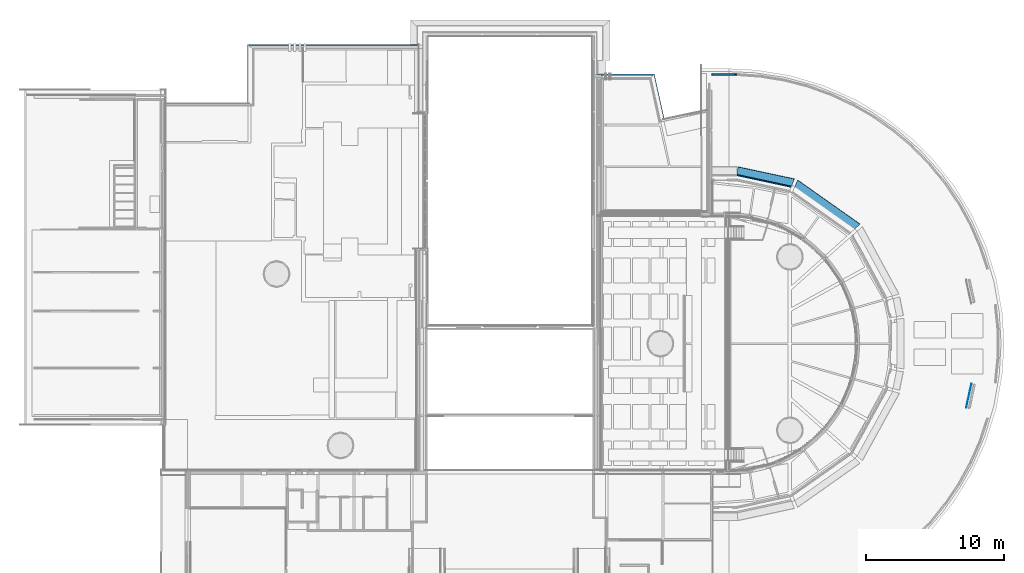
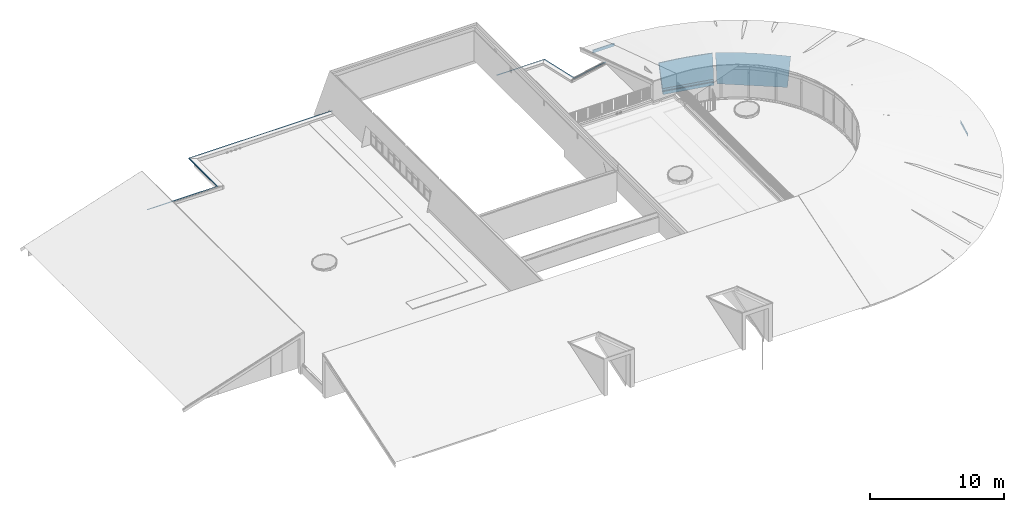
# One storey, part 52 of 66: 7 walls.
"""IFC2X3 building model written with IfcOpenShell, lengths in millimetres."""

from ifc_helpers import new_model, entity, si_unit, converted_unit, derived_unit, direction, frame, origin, place, context, subcontext, project, spatial, faceted_brep, material, layer, layer_set, type_object, element, save


model = new_model("IFC2X3")

# Units and contexts
model_context = context("Model", 3, precision=0.01, world=origin(), true_north=direction((6.12303176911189e-17, 1.0)))
body_context = subcontext(model_context, "Body", "Model", "MODEL_VIEW")
ifc_project = project(units=[si_unit("LENGTHUNIT", "METRE", prefix="MILLI"), si_unit("AREAUNIT", "SQUARE_METRE"), si_unit("VOLUMEUNIT", "CUBIC_METRE"), converted_unit("PLANEANGLEUNIT", "DEGREE", entity("IfcRatioMeasure", 0.0174532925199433), si_unit("PLANEANGLEUNIT", "RADIAN"), dimensions=[0, 0, 0, 0, 0, 0, 0]), si_unit("MASSUNIT", "GRAM", prefix="KILO"), derived_unit("MASSDENSITYUNIT", [(si_unit("MASSUNIT", "GRAM", prefix="KILO"), 1), (si_unit("LENGTHUNIT", "METRE"), -3)]), derived_unit("MOMENTOFINERTIAUNIT", [(si_unit("LENGTHUNIT", "METRE"), 4)]), si_unit("TIMEUNIT", "SECOND"), si_unit("FREQUENCYUNIT", "HERTZ"), si_unit("THERMODYNAMICTEMPERATUREUNIT", "DEGREE_CELSIUS"), derived_unit("THERMALTRANSMITTANCEUNIT", [(si_unit("MASSUNIT", "GRAM", prefix="KILO"), 1), (si_unit("THERMODYNAMICTEMPERATUREUNIT", "KELVIN"), -1), (si_unit("TIMEUNIT", "SECOND"), -3)]), derived_unit("VOLUMETRICFLOWRATEUNIT", [(si_unit("LENGTHUNIT", "METRE"), 3), (si_unit("TIMEUNIT", "SECOND"), -1)]), si_unit("ELECTRICCURRENTUNIT", "AMPERE"), si_unit("ELECTRICVOLTAGEUNIT", "VOLT"), si_unit("POWERUNIT", "WATT"), si_unit("FORCEUNIT", "NEWTON", prefix="KILO"), si_unit("ILLUMINANCEUNIT", "LUX"), si_unit("LUMINOUSFLUXUNIT", "LUMEN"), si_unit("LUMINOUSINTENSITYUNIT", "CANDELA"), derived_unit("USERDEFINED", [(si_unit("MASSUNIT", "GRAM", prefix="KILO"), -1), (si_unit("LENGTHUNIT", "METRE"), -2), (si_unit("TIMEUNIT", "SECOND"), 3), (si_unit("LUMINOUSFLUXUNIT", "LUMEN"), 1)]), derived_unit("LINEARVELOCITYUNIT", [(si_unit("LENGTHUNIT", "METRE"), 1), (si_unit("TIMEUNIT", "SECOND"), -1)]), si_unit("PRESSUREUNIT", "PASCAL"), derived_unit("USERDEFINED", [(si_unit("LENGTHUNIT", "METRE"), -2), (si_unit("MASSUNIT", "GRAM", prefix="KILO"), 1), (si_unit("TIMEUNIT", "SECOND"), -2)]), derived_unit("LINEARFORCEUNIT", [(si_unit("MASSUNIT", "GRAM", prefix="KILO"), 1), (si_unit("LENGTHUNIT", "METRE"), 1), (si_unit("TIMEUNIT", "SECOND"), -2), (si_unit("LENGTHUNIT", "METRE"), -1)]), derived_unit("PLANARFORCEUNIT", [(si_unit("MASSUNIT", "GRAM", prefix="KILO"), 1), (si_unit("LENGTHUNIT", "METRE"), 1), (si_unit("TIMEUNIT", "SECOND"), -2), (si_unit("LENGTHUNIT", "METRE"), -2)])], contexts=[model_context])

# Site, building, storey
site_placement = place(None, origin())
site = spatial("IfcSite", under=ifc_project, at=site_placement, Name="Default", CompositionType="ELEMENT")
building_placement = place(site_placement, origin())
building = spatial("IfcBuilding", under=site, at=building_placement, Name="-", CompositionType="ELEMENT")
storey_placement = place(building_placement, frame((0.0, 0.0, 3070.0)))
storey = spatial("IfcBuildingStorey", under=building, at=storey_placement, Name="01 eerste verdieping", CompositionType="ELEMENT", Elevation=3070.00000000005)

# Walls
ifc_material_1 = material(Name="NLRS_i4_hout_multiplex")
ifc_layer_1 = layer(ifc_material_1, 9.0)
ifc_material_2 = material(Name="NLRS_m1_isolatie")
ifc_layer_2 = layer(ifc_material_2, 89.0)
ifc_layer_3 = layer(ifc_material_1, 9.0)
ifc_layer_set_1 = layer_set([ifc_layer_1, ifc_layer_2, ifc_layer_3], Name="Basic Wall:NLRS_21_WA_HSB-wand_110mm")
wall_type_1 = type_object("IfcWallType", Name="Basic Wall:NLRS_21_WA_HSB-wand_110mm", PredefinedType="STANDARD", material=ifc_layer_set_1)
wall_1_placement = place(storey_placement, frame((49388.620390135, 39109.6788221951, -370.0)))
element("IfcWall", 1, at=wall_1_placement, inside=storey, type_object=wall_type_1, Name="Basic Wall:NLRS_21_WA_HSB-wand_110mm", ObjectType="Basic Wall:NLRS_21_WA_HSB-wand_110mm", context=body_context, shape_type="Brep", body=[
    faceted_brep([(0.0, -53.5000000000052, 0.0), (1840.21494557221, -53.5000000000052, 0.0), (1840.21494557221, -53.5000000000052, 273.75870137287), (1548.8239879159, -53.5000000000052, 275.88435530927), (1257.42641672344, -53.5000000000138, 276.628618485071), (0.0, -53.5000000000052, 276.628618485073), (1844.07011167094, 53.4999999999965, 0.0), (0.0, 53.4999999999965, 0.0), (0.0, 53.4999999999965, 241.862210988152), (1257.42641672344, 53.4999999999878, 241.825004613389), (1550.75158005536, 53.4999999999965, 241.112467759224), (1844.07011167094, 53.4999999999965, 238.970373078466), (1842.1425286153, -1.74315619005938e-07, 256.364538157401), (1257.42641672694, 40.1332010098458, 246.205347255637), (1257.42641671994, -40.1140653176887, 272.279264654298), (1257.42641671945, -26.7390653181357, 267.933463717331), (1257.42641672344, 0.00820101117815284, 259.242750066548), (1257.42641672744, 26.7554673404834, 250.552036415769)], [[[0, 1, 2, 3, 4, 5]], [[6, 7, 8, 9, 10, 11]], [[1, 0, 7, 6]], [[0, 5, 8, 7]], [[2, 1, 6, 11, 12]], [[13, 9, 8]], [[4, 14, 15, 16, 17, 13, 8, 5]], [[14, 4, 3, 16, 15]], [[17, 16, 10, 13]], [[3, 2, 12]], [[3, 12, 10]], [[9, 13, 10]], [[11, 10, 12]], [[10, 16, 3]]]),
])
ifc_material_3 = material(Name="NLRS_f7_gipsplaat_gen")
ifc_layer_4 = layer(ifc_material_3, 12.5)
ifc_layer_5 = layer(ifc_material_2, 89.0)
ifc_layer_6 = layer(ifc_material_3, 12.5)
ifc_layer_set_2 = layer_set([ifc_layer_4, ifc_layer_5, ifc_layer_6], Name="Basic Wall:NLRS_21_WA_HSB-wand_114mm")
wall_type_2 = type_object("IfcWallType", Name="Basic Wall:NLRS_21_WA_HSB-wand_114mm", PredefinedType="STANDARD", material=ifc_layer_set_2)
wall_2_placement = place(storey_placement, frame((55320.1348666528, 31060.142177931, -370.0), z_axis=(0.0, 0.0, 1.0), x_axis=(-0.977793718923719, 0.209569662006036, 0.0)))
element("IfcWall", 2, at=wall_2_placement, inside=storey, type_object=wall_type_2, Name="Basic Wall:NLRS_21_WA_HSB-wand_114mm", ObjectType="Basic Wall:NLRS_21_WA_HSB-wand_114mm", context=body_context, shape_type="Brep", body=[
    faceted_brep([(135.951198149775, 60.2869408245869, 0.0), (4161.52065344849, 60.2869408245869, 0.0), (4242.63730982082, -705.243775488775, 2356.06128279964), (3760.61903109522, -708.41421084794, 2365.8188795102), (3064.04620488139, -712.995860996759, 2379.91974874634), (2474.7506524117, -716.871903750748, 2391.84898171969), (1885.45509994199, -720.747946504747, 2403.77821469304), (1412.71275010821, -716.469724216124, 2390.61120038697), (939.970400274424, -712.191501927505, 2377.4441860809), (469.985200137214, -707.938231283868, 2364.35396504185), (0.0, -703.684960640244, 2351.2637440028), (19.2649333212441, -595.426497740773, 2386.99020441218), (604.259538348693, -599.694555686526, 2400.12593608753), (1189.25414337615, -603.962613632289, 2413.26166776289), (1774.2487484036, -608.230671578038, 2426.39739943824), (2359.24335343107, -612.498729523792, 2439.5331311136), (3295.1984051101, -604.682368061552, 2415.47684412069), (3763.1759309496, -600.774187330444, 2403.44870062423), (4231.15345678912, -596.866006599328, 2391.42055712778), (4164.38129256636, 33.2899316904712, 452.0), (133.327717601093, 33.2899316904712, 452.0), (146.376486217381, 105.097184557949, 231.0), (4156.77250021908, 105.097184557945, 231.0), (4148.81941862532, 180.153634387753, 0.0), (157.281852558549, 180.153634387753, 0.0), (4167.36863367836, 5.09718455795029, 231.0), (4167.36863367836, 5.09718455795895, 452.0), (4236.8953814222, -651.054873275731, 2373.74103464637), (9.63246674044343, -649.555728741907, 2369.12697744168), (128.669283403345, 5.09718455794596, 452.0), (128.669283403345, 5.09718455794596, 231.0), (128.20454940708, 5.09718455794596, 231.0), (128.20454940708, 5.09718455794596, 452.0)], [[[0, 1, 2, 3, 4, 5, 6, 7, 8, 9, 10]], [[11, 12, 13, 14, 15, 16, 17, 18, 19, 20, 21, 22, 23, 24]], [[0, 24, 23, 1]], [[2, 1, 23, 22, 25, 26, 19, 18, 27]], [[0, 10, 28, 11, 24]], [[29, 26, 25, 30, 31, 32]], [[20, 32, 31, 21]], [[20, 19, 26, 29, 32]], [[25, 22, 21, 31, 30]], [[16, 15, 5]], [[17, 4, 3]], [[8, 12, 9]], [[17, 16, 4]], [[3, 2, 27]], [[14, 7, 6]], [[28, 9, 11]], [[12, 11, 9]], [[13, 7, 14]], [[6, 15, 14]], [[18, 3, 27]], [[4, 16, 5]], [[8, 13, 12]], [[28, 10, 9]], [[13, 8, 7]], [[3, 18, 17]], [[15, 6, 5]]]),
])
ifc_material_4 = material(Name="AL_Aluminium zwart 2")
wall_type_3 = type_object("IfcWallType", Name="Daktrim:Daktrim", PredefinedType="NOTDEFINED", material=ifc_material_4)
wall_3_placement = place(storey_placement, frame((41093.0668104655, 35790.7402397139, 427.0)))
element("IfcWall", 3, at=wall_3_placement, inside=storey, type_object=wall_type_3, material=ifc_material_4, Name="Daktrim:Daktrim", ObjectType="Daktrim:Daktrim", context=body_context, shape_type="Brep", body=[
    faceted_brep([(0.0, 3351.32971343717, 0.0), (0.0, 3348.36440362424, 0.0), (0.0, 3341.11486999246, 6.0821522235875), (0.0, 3341.75797456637, 6.84793074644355), (0.0, 3348.72833128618, 1.0), (0.0, 3350.32971376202, 1.0), (0.0, 3350.32971376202, 67.0), (0.0, 3342.32971343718, 67.0), (0.0, 3342.32971343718, 63.5253906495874), (0.0, 3341.32971343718, 63.5253906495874), (0.0, 3341.32971343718, 67.0), (0.0, 3242.32971376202, 67.0), (0.0, 3242.32971376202, 68.3496093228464), (0.0, 3350.32971343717, 68.3496093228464), (0.0, 3350.32971343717, 79.0), (0.0, 3341.32971343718, 79.0), (0.0, 3341.32971343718, 80.0), (0.0, 3351.32971343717, 80.0), (4151.0048192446, 3351.32971343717, 0.0), (4866.37536737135, 129.310415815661, 0.0), (7917.15042964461, 784.84196459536, 0.0), (7917.77337822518, 781.942827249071, 0.0), (4864.1189008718, 125.792567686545, 0.0), (4148.62567513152, 3348.36440362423, 0.0), (4142.80918837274, 3341.11486999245, 6.0821522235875), (4143.32516766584, 3341.75797456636, 6.84793074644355), (4148.9176636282, 3348.72833128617, 1.0), (4864.39583334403, 126.224307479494, 1.0), (7917.69692475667, 782.298633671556, 1.0), (7917.36050832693, 783.864280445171, 1.0), (4865.61441289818, 128.124082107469, 1.0), (4150.2024938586, 3350.32971376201, 1.0), (4150.2024938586, 3350.32971376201, 67.0), (4865.61441289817, 128.124082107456, 67.0), (7917.36050832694, 783.864280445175, 67.0), (7919.04113839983, 776.042804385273, 67.0), (4859.52677488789, 118.633408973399, 67.0), (4143.78388842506, 3342.32971343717, 67.0), (4143.78388842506, 3342.32971343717, 63.5253906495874), (4859.52677488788, 118.633408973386, 63.5253906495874), (7919.04113839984, 776.042804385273, 63.5253906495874), (7919.25121715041, 775.065119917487, 63.5253906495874), (4858.76582016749, 117.44707487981, 63.5253906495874), (4142.98156277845, 3341.32971343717, 63.5253906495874), (4142.98156277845, 3341.32971343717, 67.0), (4858.76582016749, 117.447074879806, 67.0), (7919.25121715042, 775.065119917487, 67.0), (7940.04901338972, 678.274357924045, 67.0), (4783.43130309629, 0.0, 67.0), (4063.55132402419, 3242.32971376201, 67.0), (4063.55132402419, 3242.32971376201, 68.3496093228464), (4783.43130309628, 0.0, 68.3496093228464), (7940.04901338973, 678.274357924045, 68.3496093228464), (7917.36050839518, 783.864280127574, 68.3496093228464), (4865.61441265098, 128.12408172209, 68.3496093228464), (4150.20249359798, 3350.32971343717, 68.3496093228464), (4150.20249359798, 3350.32971343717, 79.0), (4865.61441265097, 128.124081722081, 79.0), (7917.36050839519, 783.864280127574, 79.0), (7919.25121715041, 775.065119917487, 79.0), (4858.76582016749, 117.44707487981, 79.0), (4142.98156277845, 3341.32971343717, 79.0), (4142.98156277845, 3341.32971343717, 80.0), (4858.76582016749, 117.447074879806, 80.0), (7919.25121715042, 775.065119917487, 80.0), (7917.1504296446, 784.841964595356, 80.0), (4866.37536737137, 129.310415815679, 80.0), (4151.00481924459, 3351.32971343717, 80.0), (7919.16124858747, 775.483824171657, 6.84793074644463), (7919.29635119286, 774.855070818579, 6.08215222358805), (4858.6023340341, 117.192198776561, 6.0821522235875), (4859.09170749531, 117.955135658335, 6.84793074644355)], [[[0, 1, 2, 3, 4, 5, 6, 7, 8, 9, 10, 11, 12, 13, 14, 15, 16, 17]], [[1, 0, 18, 19, 20, 21, 22, 23]], [[2, 1, 23, 24]], [[3, 2, 24, 25]], [[4, 3, 25, 26]], [[5, 4, 26, 27, 28, 29, 30, 31]], [[6, 5, 31, 32]], [[7, 6, 32, 33, 34, 35, 36, 37]], [[8, 7, 37, 38]], [[9, 8, 38, 39, 40, 41, 42, 43]], [[10, 9, 43, 44]], [[11, 10, 44, 45, 46, 47, 48, 49]], [[12, 11, 49, 50]], [[13, 12, 50, 51, 52, 53, 54, 55]], [[14, 13, 55, 56]], [[15, 14, 56, 57, 58, 59, 60, 61]], [[16, 15, 61, 62]], [[17, 16, 62, 63, 64, 65, 66, 67]], [[0, 17, 67, 18]], [[20, 65, 64, 59, 58, 53, 52, 47, 46, 41, 40, 35, 34, 29, 28, 68, 69, 21]], [[24, 23, 22, 70]], [[25, 24, 70, 71]], [[26, 25, 71, 27]], [[32, 31, 30, 33]], [[38, 37, 36, 39]], [[44, 43, 42, 45]], [[50, 49, 48, 51]], [[56, 55, 54, 57]], [[62, 61, 60, 63]], [[18, 67, 66, 19]], [[70, 22, 21, 69]], [[71, 70, 69, 68]], [[27, 71, 68, 28]], [[33, 30, 29, 34]], [[39, 36, 35, 40]], [[45, 42, 41, 46]], [[51, 48, 47, 52]], [[57, 54, 53, 58]], [[63, 60, 59, 64]], [[19, 66, 65, 20]]]),
])
ifc_material_5 = material(Name="h7_zink zwart")
wall_type_4 = type_object("IfcWallType", Name="Daktrim7:Daktrim", PredefinedType="NOTDEFINED", material=ifc_material_5)
wall_4_placement = place(storey_placement, frame((9703.5302694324, 36926.986577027, 427.0)))
element("IfcWall", 4, at=wall_4_placement, inside=storey, type_object=wall_type_4, material=ifc_material_5, Name="Daktrim7:Daktrim", ObjectType="Daktrim7:Daktrim", context=body_context, shape_type="Brep", body=[
    faceted_brep([(0.0, 108.999999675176, 0.0), (0.0, 106.034689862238, 0.0), (0.0, 98.7851562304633, 6.08215222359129), (0.0, 99.4282608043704, 6.84793074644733), (0.0, 106.398617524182, 1.0), (0.0, 108.0, 1.0), (0.0, 108.0, 67.0), (0.0, 99.9999996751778, 67.0), (0.0, 99.9999996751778, 63.5253906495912), (0.0, 98.999999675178, 63.5253906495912), (0.0, 98.999999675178, 67.0), (0.0, 0.0, 67.0), (0.0, 0.0, 68.3496093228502), (0.0, 107.999999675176, 68.3496093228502), (0.0, 107.999999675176, 79.0), (0.0, 98.999999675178, 79.0), (0.0, 98.999999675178, 80.0), (0.0, 108.999999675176, 80.0), (18460.469730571, 4351.76757907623, 0.0), (18460.469730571, 4351.76757907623, 80.0), (18460.469730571, 4341.76757907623, 80.0), (18460.469730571, 4341.76757907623, 79.0), (18460.469730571, 4350.76757907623, 79.0), (18460.469730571, 4350.76757907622, 68.3496093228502), (18460.469730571, 4242.76757940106, 68.3496093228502), (18460.469730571, 4242.76757940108, 67.0), (18460.469730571, 4341.76757907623, 67.0), (18460.469730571, 4341.76757907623, 63.5253906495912), (18460.469730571, 4342.76757907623, 63.5253906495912), (18460.469730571, 4342.76757907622, 67.0), (18460.469730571, 4350.76757940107, 67.0), (18460.469730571, 4350.76757940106, 1.0), (18460.469730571, 4349.16619692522, 1.0), (18460.469730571, 4342.19584020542, 6.84793074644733), (18460.469730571, 4341.55273563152, 6.08215222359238), (18460.469730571, 4348.80226926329, 0.0), (6061.68457401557, 4341.55273563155, 6.08215222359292), (6054.4350403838, 4348.80226926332, 0.0), (6061.04146944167, 4342.19584020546, 6.84793074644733), (6054.07111272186, 4349.16619692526, 1.0), (6052.46973024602, 4350.7675794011, 67.0), (6052.46973024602, 4350.7675794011, 1.0), (6060.46973057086, 4342.76757907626, 63.5253906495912), (6060.46973057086, 4342.76757907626, 67.0), (6061.46973057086, 4341.76757907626, 67.0), (6061.46973057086, 4341.76757907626, 63.5253906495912), (6160.46973024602, 4242.76757940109, 68.3496093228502), (6160.46973024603, 4242.76757940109, 67.0), (6052.46973057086, 4350.76757907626, 79.0), (6052.46973057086, 4350.76757907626, 68.3496093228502), (6061.46973057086, 4341.76757907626, 80.0), (6061.46973057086, 4341.76757907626, 79.0), (6051.46973057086, 4351.76757907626, 0.0), (6051.46973057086, 4351.76757907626, 80.0), (6054.43504038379, 106.034689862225, 0.0), (6061.68457401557, 98.7851562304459, 6.08215222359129), (6061.04146944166, 99.4282608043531, 6.84793074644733), (6054.07111272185, 106.398617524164, 1.0), (6052.46973024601, 108.0, 1.0), (6052.46973024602, 108.0, 67.0), (6060.46973057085, 99.9999996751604, 67.0), (6060.46973057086, 99.9999996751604, 63.5253906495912), (6061.46973057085, 98.9999996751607, 63.5253906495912), (6061.46973057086, 98.9999996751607, 67.0), (6160.46973024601, 0.0, 67.0), (6160.46973024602, 0.0, 68.3496093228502), (6052.46973057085, 107.999999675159, 68.3496093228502), (6052.46973057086, 107.999999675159, 79.0), (6061.46973057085, 98.9999996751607, 79.0), (6061.46973057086, 98.9999996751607, 80.0), (6051.46973057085, 108.999999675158, 80.0), (6051.46973057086, 108.999999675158, 0.0)], [[[0, 1, 2, 3, 4, 5, 6, 7, 8, 9, 10, 11, 12, 13, 14, 15, 16, 17]], [[18, 19, 20, 21, 22, 23, 24, 25, 26, 27, 28, 29, 30, 31, 32, 33, 34, 35]], [[36, 37, 35, 34]], [[38, 36, 34, 33]], [[39, 38, 33, 32]], [[40, 41, 31, 30]], [[42, 43, 29, 28]], [[44, 45, 27, 26]], [[46, 47, 25, 24]], [[48, 49, 23, 22]], [[50, 51, 21, 20]], [[52, 53, 19, 18]], [[2, 1, 54, 55]], [[3, 2, 55, 56]], [[4, 3, 56, 57]], [[6, 5, 58, 59]], [[8, 7, 60, 61]], [[10, 9, 62, 63]], [[12, 11, 64, 65]], [[14, 13, 66, 67]], [[16, 15, 68, 69]], [[0, 17, 70, 71]], [[55, 54, 37, 36]], [[56, 55, 36, 38]], [[57, 56, 38, 39]], [[59, 58, 41, 40]], [[61, 60, 43, 42]], [[63, 62, 45, 44]], [[65, 64, 47, 46]], [[67, 66, 49, 48]], [[69, 68, 51, 50]], [[71, 70, 53, 52]], [[1, 0, 71, 52, 18, 35, 37, 54]], [[5, 4, 57, 39, 32, 31, 41, 58]], [[7, 6, 59, 40, 30, 29, 43, 60]], [[9, 8, 61, 42, 28, 27, 45, 62]], [[11, 10, 63, 44, 26, 25, 47, 64]], [[13, 12, 65, 46, 24, 23, 49, 66]], [[15, 14, 67, 48, 22, 21, 51, 68]], [[17, 16, 69, 50, 20, 19, 53, 70]]]),
])
ifc_material_6 = material(Name="AL_Multiplex RAL 9002")
ifc_layer_7 = layer(ifc_material_6, 15.0)
ifc_layer_set_3 = layer_set([ifc_layer_7], Name="Basic Wall:NLRS_41_WA_plaatmateriaal 15mm RAL 9002")
wall_type_5 = type_object("IfcWallType", Name="Basic Wall:NLRS_41_WA_plaatmateriaal 15mm RAL 9002", PredefinedType="STANDARD", material=ifc_layer_set_3)
wall_5_placement = place(storey_placement, frame((68206.6973440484, 16713.0187964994, 190.0), z_axis=(0.0, 0.0, 1.0), x_axis=(-0.21158022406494, -0.97736063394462, 0.0)))
element("IfcWall", 5, at=wall_5_placement, inside=storey, type_object=wall_type_5, Name="Basic Wall:NLRS_41_WA_plaatmateriaal 15mm RAL 9002", ObjectType="Basic Wall:NLRS_41_WA_plaatmateriaal 15mm RAL 9002", context=body_context, shape_type="Brep", body=[
    faceted_brep([(0.0, -7.49999999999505, 252.425430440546), (0.0, -7.49999999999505, 0.0), (1770.17104510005, -7.49999999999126, 0.0), (1770.17104510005, -7.49999999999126, 252.198284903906), (1278.45521084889, -7.49999999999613, 255.796051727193), (786.739376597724, -7.49999999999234, 259.393818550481), (1770.17104510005, 7.50000000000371, 0.0), (0.0, 7.50000000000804, 0.0), (0.0, 7.50000000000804, 247.557569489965), (229.488134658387, 7.50000000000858, 249.176408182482), (458.97626931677, 7.50000000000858, 250.795246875), (983.43346739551, 7.50000000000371, 254.494835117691), (1360.02593314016, 7.50000000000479, 251.065494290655), (1565.09848912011, 7.50000000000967, 249.198054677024), (1770.17104510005, 7.50000000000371, 247.330615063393), (1770.17104510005, 3.78674303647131e-07, 249.764451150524), (0.0, 3.66880797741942e-07, 249.991501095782)], [[[0, 1, 2, 3, 4, 5]], [[6, 7, 8, 9, 10, 11, 12, 13, 14]], [[2, 1, 7, 6]], [[3, 2, 6, 14, 15]], [[1, 0, 16, 8, 7]], [[5, 10, 0]], [[11, 5, 4]], [[9, 8, 16]], [[10, 5, 11]], [[15, 14, 13]], [[15, 13, 3]], [[12, 4, 3]], [[10, 9, 0]], [[11, 4, 12]], [[13, 12, 3]], [[0, 9, 16]]]),
])
ifc_material_7 = material(Name="NLRS_Akoestisch paneel RAL 9010")
ifc_layer_8 = layer(ifc_material_7, 18.0)
ifc_layer_set_4 = layer_set([ifc_layer_8], Name="Basic Wall:NLRS_42_WA_Akoestische panelen")
wall_type_6 = type_object("IfcWallType", Name="Basic Wall:NLRS_42_WA_Akoestische panelen", PredefinedType="STANDARD", material=ifc_layer_set_4)
wall_6_placement = place(storey_placement, frame((59946.8238547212, 27896.9309419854, -355.0), z_axis=(0.0, 0.0, 1.0), x_axis=(-0.817056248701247, 0.576557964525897, 0.0)))
element("IfcWall", 6, at=wall_6_placement, inside=storey, type_object=wall_type_6, Name="Basic Wall:NLRS_42_WA_Akoestische panelen", ObjectType="Basic Wall:NLRS_42_WA_Akoestische panelen", context=body_context, shape_type="Brep", body=[
    faceted_brep([(174.188157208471, 105.88333214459, 0.0), (5484.09306316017, 105.883332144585, 0.0), (5658.82652328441, -649.686493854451, 2325.40481466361), (5632.64936532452, -650.170762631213, 2326.8952407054), (5606.47220736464, -650.655031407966, 2328.3856667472), (5554.11789144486, -651.62356896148, 2331.3665188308), (5449.4092596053, -653.560644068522, 2337.328222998), (5397.05494368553, -654.529181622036, 2340.30907508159), (5344.70062776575, -655.497719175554, 2343.28992716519), (5292.34631184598, -656.466256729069, 2346.27077924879), (5239.99199592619, -657.434794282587, 2349.25163133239), (5135.3560900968, -659.37052398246, 2355.20919476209), (5083.03813718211, -660.338388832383, 2358.18797647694), (5030.72018426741, -661.306253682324, 2361.16675819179), (4952.14674637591, -662.404742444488, 2364.54755897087), (4873.57330848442, -663.503231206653, 2367.92835974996), (4794.99987059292, -664.601719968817, 2371.30916052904), (4716.42643270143, -665.700208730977, 2374.68996130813), (4637.85299480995, -666.798697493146, 2378.07076208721), (4559.27955691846, -667.897186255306, 2381.4515628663), (4480.70611902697, -668.995675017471, 2384.83236364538), (4402.13268113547, -670.09416377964, 2388.21316442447), (4244.89773893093, -671.568944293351, 2392.75207213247), (4087.66279672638, -673.043724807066, 2397.29097984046), (3930.42785452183, -674.518505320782, 2401.82988754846), (3773.1929123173, -675.993285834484, 2406.36879525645), (3458.61562660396, -677.478906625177, 2410.94106590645), (3144.03834089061, -678.964527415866, 2415.51333655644), (2514.80970156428, -678.987931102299, 2415.5853656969), (2200.23125707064, -677.525634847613, 2411.08488058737), (1885.65281257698, -676.06333859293, 2406.58439547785), (1728.41716764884, -674.600108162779, 2402.0810352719), (1571.18152272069, -673.136877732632, 2397.57767506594), (1413.94587779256, -671.673647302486, 2393.07431485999), (1256.71023286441, -670.210416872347, 2388.57095465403), (1178.1360869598, -669.11760816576, 2385.20763528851), (1099.56194105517, -668.024799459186, 2381.84431592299), (1020.98779515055, -666.931990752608, 2378.48099655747), (942.413649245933, -665.839182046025, 2375.11767719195), (863.839503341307, -664.746373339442, 2371.75435782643), (785.265357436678, -663.653564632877, 2368.39103846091), (706.69121153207, -662.560755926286, 2365.02771909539), (628.117065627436, -661.467947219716, 2361.66439972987), (575.906649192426, -660.5057748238, 2358.70313758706), (523.696232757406, -659.543602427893, 2355.74187544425), (419.275399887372, -657.619257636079, 2349.81935115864), (366.865974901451, -656.653417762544, 2346.84680168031), (314.456549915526, -655.68757788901, 2343.87425220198), (262.047124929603, -654.721738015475, 2340.90170272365), (209.637699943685, -653.755898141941, 2337.92915324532), (104.818849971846, -651.824218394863, 2331.98405428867), (52.4094249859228, -650.858378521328, 2329.01150481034), (26.2047124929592, -650.375458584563, 2327.52523007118), (0.0, -649.892538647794, 2326.03895533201), (178.550218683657, 124.809652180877, 0.0), (3.93568464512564, -632.816202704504, 2331.73262091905), (82.3409178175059, -634.26103299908, 2336.17935133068), (160.746150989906, -635.705863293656, 2340.6260817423), (239.15138416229, -637.150693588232, 2345.07281215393), (317.556617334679, -638.595523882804, 2349.51954256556), (395.961850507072, -640.040354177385, 2353.96627297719), (474.367083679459, -641.485184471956, 2358.41300338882), (552.772316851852, -642.930014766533, 2362.85973380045), (631.177550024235, -644.374845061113, 2367.30646421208), (709.64222913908, -645.466070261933, 2370.664910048), (788.106908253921, -646.557295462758, 2374.02335588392), (866.571587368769, -647.648520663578, 2377.38180171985), (945.036266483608, -648.739745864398, 2380.74024755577), (1023.50094559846, -649.830971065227, 2384.09869339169), (1101.9656247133, -650.922196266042, 2387.45713922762), (1180.43030382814, -652.013421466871, 2390.81558506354), (1258.89498294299, -653.104646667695, 2394.17403089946), (1415.91157142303, -654.565755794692, 2398.67086240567), (1572.92815990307, -656.026864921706, 2403.16769391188), (1729.9447483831, -657.487974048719, 2407.66452541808), (1886.96133686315, -658.949083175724, 2412.16135692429), (2201.10135270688, -660.409257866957, 2416.65531253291), (2515.24136855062, -661.869432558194, 2421.14926814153), (3143.59333033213, -661.846061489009, 2421.07733938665), (3457.73222924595, -660.362594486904, 2416.51169741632), (3771.87112815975, -658.879127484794, 2411.94605544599), (3928.88685768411, -657.406486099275, 2407.41373129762), (4085.90258720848, -655.933844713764, 2402.88140714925), (4242.91831673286, -654.461203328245, 2398.34908300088), (4399.93404625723, -652.98856194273, 2393.81675885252), (4478.39814512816, -651.891662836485, 2390.44085053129), (4556.8622439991, -650.794763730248, 2387.06494221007), (4635.32634287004, -649.697864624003, 2383.68903388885), (4713.79044174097, -648.600965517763, 2380.31312556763), (4792.25454061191, -647.504066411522, 2376.9372172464), (4870.71863948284, -646.407167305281, 2373.56130892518), (4949.18273835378, -645.310268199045, 2370.18540060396), (5027.64683722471, -644.213369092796, 2366.80949228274), (5106.05067101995, -642.763003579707, 2362.34572622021), (5184.45450481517, -641.312638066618, 2357.88196015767), (5262.85833861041, -639.862272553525, 2353.41819409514), (5341.26217240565, -638.411907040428, 2348.95442803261), (5419.66600620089, -636.961541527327, 2344.49066197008), (5498.06983999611, -635.511176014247, 2340.02689590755), (5576.47367379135, -634.060810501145, 2335.56312984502), (5654.87750758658, -632.610444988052, 2331.09936378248), (5479.71615281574, 124.809652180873, 0.0), (1.96784231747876, -641.354370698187, 2328.88578819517), (5656.85201544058, -641.148469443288, 2328.25208929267)], [[[0, 1, 2, 3, 4, 5, 6, 7, 8, 9, 10, 11, 12, 13, 14, 15, 16, 17, 18, 19, 20, 21, 22, 23, 24, 25, 26, 27, 28, 29, 30, 31, 32, 33, 34, 35, 36, 37, 38, 39, 40, 41, 42, 43, 44, 45, 46, 47, 48, 49, 50, 51, 52, 53]], [[54, 55, 56, 57, 58, 59, 60, 61, 62, 63, 64, 65, 66, 67, 68, 69, 70, 71, 72, 73, 74, 75, 76, 77, 78, 79, 80, 81, 82, 83, 84, 85, 86, 87, 88, 89, 90, 91, 92, 93, 94, 95, 96, 97, 98, 99, 100, 101]], [[0, 54, 101, 1]], [[83, 22, 84]], [[24, 82, 81]], [[27, 26, 79]], [[55, 51, 56]], [[27, 78, 28]], [[80, 26, 25]], [[50, 56, 51]], [[75, 30, 29]], [[5, 99, 98]], [[92, 14, 13]], [[84, 22, 21]], [[92, 13, 93]], [[14, 91, 15]], [[10, 94, 11]], [[87, 19, 18]], [[25, 81, 80]], [[71, 34, 33]], [[97, 96, 8]], [[65, 40, 39]], [[40, 65, 64]], [[77, 28, 78]], [[76, 75, 29]], [[33, 72, 71]], [[74, 31, 30]], [[32, 73, 72]], [[28, 77, 76]], [[35, 34, 70]], [[32, 31, 73]], [[68, 36, 69]], [[63, 41, 64]], [[55, 102, 51]], [[21, 85, 84]], [[61, 44, 62]], [[23, 83, 82]], [[17, 89, 88]], [[57, 50, 49]], [[26, 80, 79]], [[27, 79, 78]], [[28, 76, 29]], [[45, 60, 46]], [[60, 59, 46]], [[3, 2, 103, 4]], [[83, 23, 22]], [[16, 90, 89]], [[6, 98, 97]], [[10, 95, 94]], [[88, 18, 17]], [[82, 24, 23]], [[69, 36, 35]], [[30, 75, 74]], [[32, 72, 33]], [[66, 39, 38]], [[62, 44, 43, 42]], [[49, 58, 57]], [[102, 53, 52, 51]], [[63, 42, 41]], [[9, 95, 10]], [[96, 9, 8]], [[90, 16, 15]], [[89, 17, 16]], [[15, 91, 90]], [[4, 100, 99]], [[11, 93, 13, 12]], [[86, 20, 19]], [[34, 71, 70]], [[42, 63, 62]], [[38, 67, 66]], [[40, 64, 41]], [[45, 61, 60]], [[59, 47, 46]], [[95, 9, 96]], [[100, 4, 103]], [[61, 45, 44]], [[37, 68, 67]], [[67, 38, 37]], [[14, 92, 91]], [[5, 98, 6]], [[93, 11, 94]], [[20, 86, 85]], [[81, 25, 24]], [[65, 39, 66]], [[58, 49, 48, 47]], [[73, 31, 74]], [[69, 35, 70]], [[85, 21, 20]], [[4, 99, 5]], [[6, 97, 8, 7]], [[19, 87, 86]], [[47, 59, 58]], [[50, 57, 56]], [[18, 88, 87]], [[36, 68, 37]], [[100, 103, 2, 1, 101]], [[0, 53, 102, 55, 54]]]),
])
wall_7_placement = place(storey_placement, frame((55337.6525528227, 31127.3601708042, -370.0), z_axis=(0.0, 0.0, 1.0), x_axis=(-0.97779371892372, 0.209569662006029, 0.0)))
element("IfcWall", 7, at=wall_7_placement, inside=storey, type_object=wall_type_6, Name="Basic Wall:NLRS_42_WA_Akoestische panelen", ObjectType="Basic Wall:NLRS_42_WA_Akoestische panelen", context=body_context, shape_type="Brep", body=[
    faceted_brep([(135.625031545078, 110.757127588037, 0.0), (4166.56794303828, 110.757127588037, 0.0), (4247.49237876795, -652.959524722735, 2350.47816788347), (4198.69506059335, -653.617293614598, 2352.50257237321), (4149.89774241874, -654.275062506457, 2354.52697686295), (4052.30310606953, -655.590600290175, 2358.57578584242), (3914.04997659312, -657.454198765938, 2364.31135219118), (3844.92341185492, -658.385998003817, 2367.17913536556), (3775.79684711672, -659.317797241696, 2370.04691853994), (3657.82370094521, -660.503931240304, 2373.69746362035), (3539.85055477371, -661.690065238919, 2377.34800870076), (3421.87740860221, -662.876199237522, 2380.99855378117), (3303.90426243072, -664.062333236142, 2384.64909886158), (3067.88738223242, -665.619036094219, 2389.44013762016), (2831.87050203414, -667.175738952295, 2394.23117637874), (2359.75341210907, -668.64645714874, 2398.75758155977), (1887.61202470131, -668.46898383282, 2398.21137485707), (1651.55990519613, -667.556484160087, 2395.40298963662), (1415.50778569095, -666.643984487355, 2392.59460441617), (1179.50402489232, -664.911135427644, 2387.26144339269), (943.500264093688, -663.178286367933, 2381.92828236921), (825.536911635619, -661.904897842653, 2378.00919546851), (707.573559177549, -660.631509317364, 2374.09010856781), (589.61020671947, -659.35812079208, 2370.17102166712), (471.646854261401, -658.084732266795, 2366.25193476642), (401.537611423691, -657.088370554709, 2363.18544872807), (331.428368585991, -656.092008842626, 2360.11896268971), (261.31912574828, -655.095647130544, 2357.05247665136), (191.209882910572, -654.099285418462, 2353.98599061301), (95.6049414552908, -652.740590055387, 2349.80435626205), (47.8024707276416, -652.061242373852, 2347.71353908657), (0.0, -651.381894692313, 2345.62272191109), (138.993029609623, 129.68344762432, 0.0), (3.04183145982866, -634.288453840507, 2351.26374400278), (120.818508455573, -635.962073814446, 2356.41461664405), (238.595185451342, -637.635693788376, 2361.56548928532), (356.371862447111, -639.30931376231, 2366.71636192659), (474.148539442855, -640.982933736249, 2371.86723456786), (591.977391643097, -642.25462357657, 2375.78109345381), (709.80624384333, -643.52631341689, 2379.69495233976), (827.635096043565, -644.798003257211, 2383.60881122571), (945.46394824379, -646.069693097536, 2387.52267011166), (1181.19832307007, -647.799914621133, 2392.8477444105), (1416.93269789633, -649.530136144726, 2398.17281870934), (1652.71499643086, -650.440788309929, 2400.97551788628), (1888.49729496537, -651.351440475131, 2403.77821706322), (2360.09888487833, -651.526796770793, 2404.31790824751), (2831.67670005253, -650.055544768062, 2399.78986017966), (3067.42349577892, -648.499371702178, 2395.00045195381), (3303.17029150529, -646.943198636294, 2390.21104372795), (3421.00821351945, -645.757729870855, 2386.56254602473), (3538.84613553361, -644.572261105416, 2382.9140483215), (3656.68405754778, -643.386792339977, 2379.26555061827), (3774.52197956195, -642.201323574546, 2375.61705291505), (3892.31126999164, -640.612809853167, 2370.72811038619), (4010.10056042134, -639.024296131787, 2365.83916785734), (4127.88985085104, -637.435782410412, 2360.95022532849), (4245.67914128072, -635.847268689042, 2356.06128279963), (4164.5624849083, 129.68344762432, 0.0), (4246.58576010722, -644.403397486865, 2353.26972776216), (1.52091572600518, -642.835174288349, 2348.44323302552)], [[[0, 1, 2, 3, 4, 5, 6, 7, 8, 9, 10, 11, 12, 13, 14, 15, 16, 17, 18, 19, 20, 21, 22, 23, 24, 25, 26, 27, 28, 29, 30, 31]], [[32, 33, 34, 35, 36, 37, 38, 39, 40, 41, 42, 43, 44, 45, 46, 47, 48, 49, 50, 51, 52, 53, 54, 55, 56, 57, 58]], [[0, 32, 58, 1]], [[14, 13, 48]], [[4, 3, 57]], [[47, 15, 14]], [[15, 47, 46]], [[15, 46, 45]], [[41, 20, 19]], [[52, 10, 9]], [[49, 13, 12]], [[5, 56, 55]], [[8, 54, 53]], [[2, 59, 3]], [[13, 49, 48]], [[9, 53, 52]], [[11, 51, 50]], [[14, 48, 47]], [[5, 55, 6]], [[51, 11, 10]], [[4, 57, 56]], [[28, 27, 34, 29]], [[6, 54, 8, 7]], [[45, 16, 15]], [[44, 43, 17]], [[41, 19, 42]], [[37, 24, 23]], [[42, 18, 43]], [[16, 45, 44]], [[53, 9, 8]], [[43, 18, 17]], [[21, 39, 22]], [[38, 37, 23]], [[33, 29, 34]], [[10, 52, 51]], [[35, 26, 36]], [[40, 21, 20]], [[18, 42, 19]], [[60, 30, 33]], [[36, 26, 25, 24]], [[12, 50, 49]], [[30, 29, 33]], [[22, 39, 38]], [[4, 56, 5]], [[16, 44, 17]], [[24, 37, 36]], [[20, 41, 40]], [[22, 38, 23]], [[60, 31, 30]], [[57, 3, 59]], [[35, 27, 26]], [[34, 27, 35]], [[54, 6, 55]], [[50, 12, 11]], [[39, 21, 40]], [[0, 31, 60, 33, 32]], [[59, 2, 1, 58, 57]]]),
])

save(model, "model.ifc")
